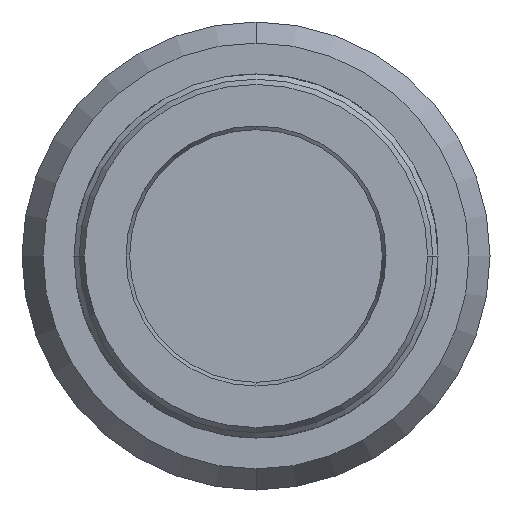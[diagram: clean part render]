
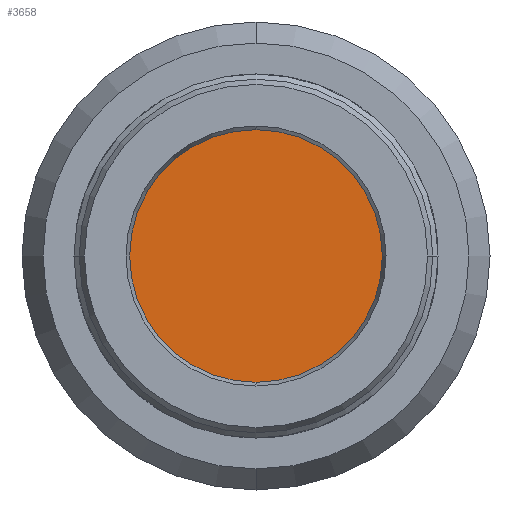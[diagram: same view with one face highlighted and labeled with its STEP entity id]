
A CAD part, front view. The second image highlights one B-rep face of the part: STEP entity #3658.
In plain terms, the highlighted planar face has unit normal (0, -1, 0).
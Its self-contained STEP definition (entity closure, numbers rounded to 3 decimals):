
#53 = DIRECTION ( 'NONE',  ( 0., 0., -1. ) ) ;
#58 = DIRECTION ( 'NONE',  ( 0., 1., 0. ) ) ;
#59 = CARTESIAN_POINT ( 'NONE',  ( 0., -113.9, 0. ) ) ;
#87 = CIRCLE ( 'NONE', #718, 24.3 ) ;
#88 = PLANE ( 'NONE',  #3584 ) ;
#116 = EDGE_LOOP ( 'NONE', ( #2457, #1368 ) ) ;
#144 = AXIS2_PLACEMENT_3D ( 'NONE', #1128, #1124, #1122 ) ;
#572 = FACE_OUTER_BOUND ( 'NONE', #116, .T. ) ;
#579 = CARTESIAN_POINT ( 'NONE',  ( 0., -113.9, 24.3 ) ) ;
#615 = CARTESIAN_POINT ( 'NONE',  ( 0., -113.9, -24.3 ) ) ;
#718 = AXIS2_PLACEMENT_3D ( 'NONE', #2167, #2179, #2269 ) ;
#1122 = DIRECTION ( 'NONE',  ( 0., 0., -1. ) ) ;
#1124 = DIRECTION ( 'NONE',  ( 0., -1., 0. ) ) ;
#1128 = CARTESIAN_POINT ( 'NONE',  ( 0., -113.9, 0. ) ) ;
#1368 = ORIENTED_EDGE ( 'NONE', *, *, #3321, .T. ) ;
#2167 = CARTESIAN_POINT ( 'NONE',  ( 0., -113.9, 0. ) ) ;
#2179 = DIRECTION ( 'NONE',  ( 0., -1., 0. ) ) ;
#2183 = CIRCLE ( 'NONE', #144, 24.3 ) ;
#2269 = DIRECTION ( 'NONE',  ( 0., 0., -1. ) ) ;
#2457 = ORIENTED_EDGE ( 'NONE', *, *, #2669, .T. ) ;
#2633 = VERTEX_POINT ( 'NONE', #579 ) ;
#2669 = EDGE_CURVE ( 'NONE', #3394, #2633, #87, .T. ) ;
#3321 = EDGE_CURVE ( 'NONE', #2633, #3394, #2183, .T. ) ;
#3394 = VERTEX_POINT ( 'NONE', #615 ) ;
#3584 = AXIS2_PLACEMENT_3D ( 'NONE', #59, #58, #53 ) ;
#3658 = ADVANCED_FACE ( 'NONE', ( #572 ), #88, .F. ) ;
